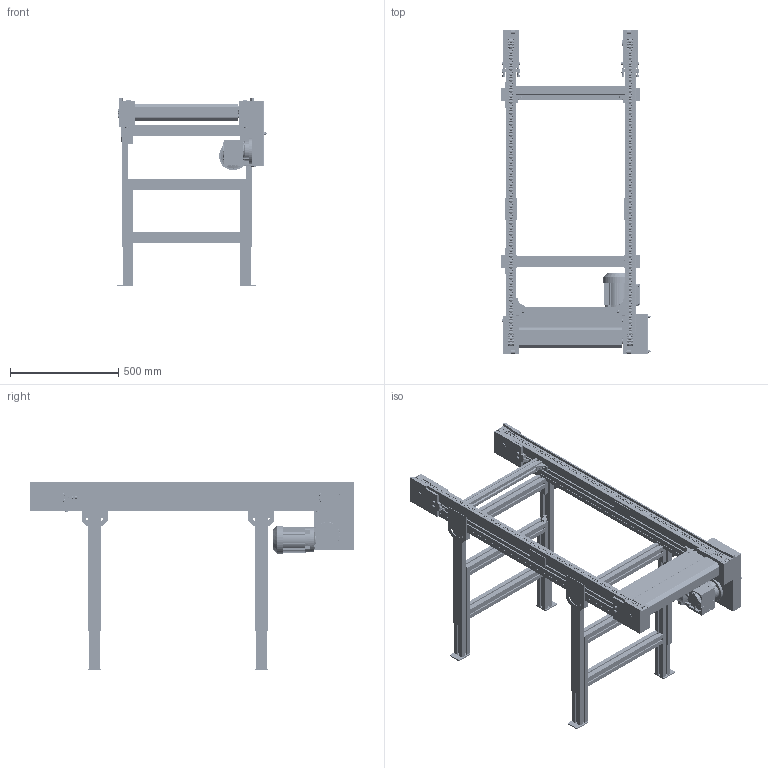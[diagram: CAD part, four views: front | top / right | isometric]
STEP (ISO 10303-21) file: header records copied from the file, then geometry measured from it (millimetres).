
FILE_DESCRIPTION(/* description */ (''),/* implementation_level */ '2;1');
FILE_NAME(/* name */ 'C:\Marketing\01_Versamove-SPU_STEP-Dateien-Homepage\Versamove plus\STEP-Dateien\Staurollenförderer_SRF-P-2010_B600_L1500.stp',/* time_stamp */ '2016-12-22T14:03:20+01:00',/* author */ ('herbert.engels'),/* organization */ (''),/* preprocessor_version */ 'ST-DEVELOPER v15.6',/* originating_system */ 'Autodesk Inventor 2015',/* authorisation */ '');
FILE_SCHEMA (('CONFIG_CONTROL_DESIGN'));
Products named in the file (1): Staurollenförderer_SRF-P-2010_B600_L1500
Bounding box: 690.6 x 1500 x 870 mm (x, y, z)
Volume: 29473619 mm3; surface area: 7093660.1 mm2
Topology: 1 solids, 1 shells, 8129 faces, 25785 edges, 16476 vertices
Faces by surface type: plane 4150, cylinder 3384, torus 409, cone 102, bspline 80, sphere 4
Full cylindrical faces by diameter (mm): 2 x4, 4 x16, 6.5 x112, 8 x49, 8.51 x448, 9.5 x2, 10 x441, 12 x3, 13 x26, 16 x93, 16.2 x8, 18 x4, 19 x2, 20 x9, 24 x1, 25.5 x4, 35 x8, 54.4 x4, 55 x8, 70 x12, 72 x1, 117 x1, 120 x1, 132 x1
Entity records: 289360 total; most frequent: CARTESIAN_POINT 55135, DIRECTION 48844, ORIENTED_EDGE 46934, EDGE_CURVE 23448, AXIS2_PLACEMENT_3D 18509, VERTEX_POINT 15525, LINE 11826, VECTOR 11826
